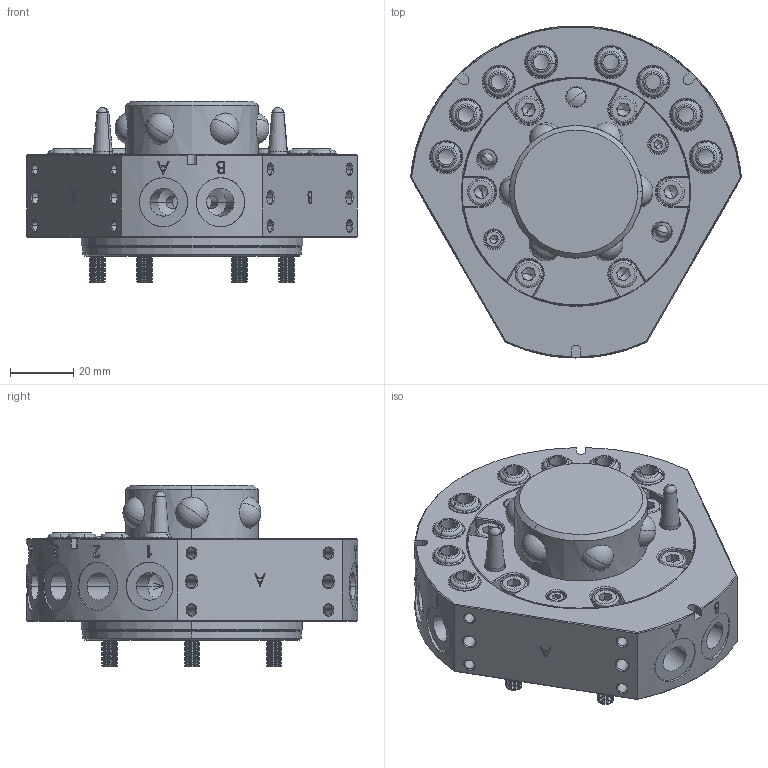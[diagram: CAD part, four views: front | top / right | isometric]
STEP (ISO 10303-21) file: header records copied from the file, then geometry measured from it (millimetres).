
FILE_DESCRIPTION (( 'STEP AP203' ), '1' );
FILE_NAME ('QCA-35R.STEP', '2024-03-19T08:05:36', ( '微软用户' ), ( '微软中国' ), 'SwSTEP 2.0', 'SolidWorks 2018', '' );
FILE_SCHEMA (( 'CONFIG_CONTROL_DESIGN' ));
Length unit declared in the file: millimetre
Products named in the file (1): QCA-35R
Bounding box: 104.62 x 104.96 x 57.5 mm (x, y, z)
Volume: 237525.6 mm3; surface area: 44754.3 mm2
Topology: 1 solids, 33 shells, 2854 faces, 6122 edges, 3360 vertices
Faces by surface type: cone 1512, cylinder 875, plane 361, torus 50, bspline 44, sphere 12
Entity records: 81316 total; most frequent: CARTESIAN_POINT 18867, DIRECTION 14349, ORIENTED_EDGE 12104, EDGE_CURVE 6052, AXIS2_PLACEMENT_3D 5699, VERTEX_POINT 3360, EDGE_LOOP 3022, LINE 2951
